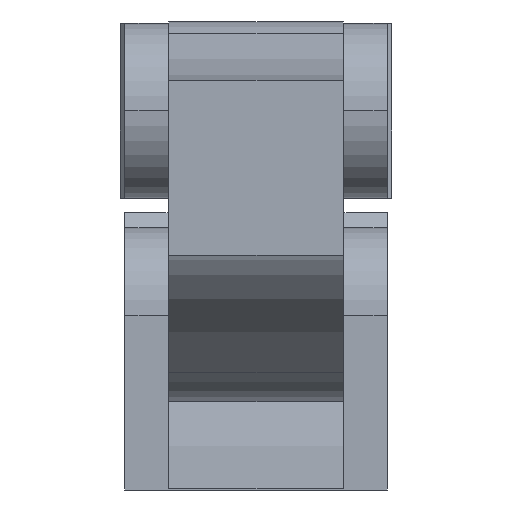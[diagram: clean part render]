
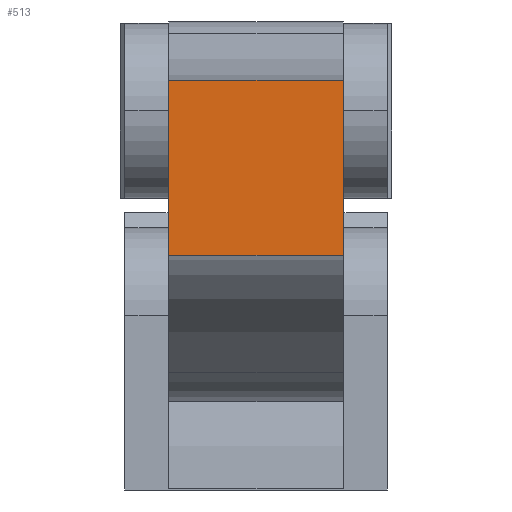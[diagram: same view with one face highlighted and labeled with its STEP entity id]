
A CAD part, left-side view. The second image highlights one B-rep face of the part: STEP entity #513.
In plain terms, the highlighted planar face has unit normal (-1, 0, 0).
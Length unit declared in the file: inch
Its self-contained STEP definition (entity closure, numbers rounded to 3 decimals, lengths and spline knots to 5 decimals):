
#513 = ADVANCED_FACE( '', ( #663 ), #664, .T. );
#663 = FACE_OUTER_BOUND( '', #969, .T. );
#664 = PLANE( '', #970 );
#969 = EDGE_LOOP( '', ( #1319, #1320, #1321, #1322 ) );
#970 = AXIS2_PLACEMENT_3D( '', #1323, #1324, #1325 );
#1319 = ORIENTED_EDGE( '', *, *, #2475, .F. );
#1320 = ORIENTED_EDGE( '', *, *, #2476, .T. );
#1321 = ORIENTED_EDGE( '', *, *, #2477, .T. );
#1322 = ORIENTED_EDGE( '', *, *, #2463, .F. );
#1323 = CARTESIAN_POINT( '', ( -3.625, 0.375, 1.75602 ) );
#1324 = DIRECTION( '', ( -1., 0., 0. ) );
#1325 = DIRECTION( '', ( 0., 0., 1. ) );
#2463 = EDGE_CURVE( '', #2865, #2866, #2867, .T. );
#2475 = EDGE_CURVE( '', #2882, #2865, #2884, .T. );
#2476 = EDGE_CURVE( '', #2882, #2885, #2886, .T. );
#2477 = EDGE_CURVE( '', #2885, #2866, #2887, .T. );
#2865 = VERTEX_POINT( '', #3517 );
#2866 = VERTEX_POINT( '', #3518 );
#2867 = LINE( '', #3519, #3520 );
#2882 = VERTEX_POINT( '', #3538 );
#2884 = LINE( '', #3541, #3542 );
#2885 = VERTEX_POINT( '', #3543 );
#2886 = LINE( '', #3544, #3545 );
#2887 = LINE( '', #3546, #3547 );
#3517 = CARTESIAN_POINT( '', ( -3.625, 0.375, 1.00602 ) );
#3518 = CARTESIAN_POINT( '', ( -3.625, 0.375, 1.75602 ) );
#3519 = CARTESIAN_POINT( '', ( -3.625, 0.375, 1.00602 ) );
#3520 = VECTOR( '', #4397, 1. );
#3538 = CARTESIAN_POINT( '', ( -3.625, -0.375, 1.00602 ) );
#3541 = CARTESIAN_POINT( '', ( -3.625, -0.375, 1.00602 ) );
#3542 = VECTOR( '', #4423, 1. );
#3543 = CARTESIAN_POINT( '', ( -3.625, -0.375, 1.75602 ) );
#3544 = CARTESIAN_POINT( '', ( -3.625, -0.375, 1.00602 ) );
#3545 = VECTOR( '', #4424, 1. );
#3546 = CARTESIAN_POINT( '', ( -3.625, -0.375, 1.75602 ) );
#3547 = VECTOR( '', #4425, 1. );
#4397 = DIRECTION( '', ( 0., 0., 1. ) );
#4423 = DIRECTION( '', ( 0., 1., 0. ) );
#4424 = DIRECTION( '', ( 0., 0., 1. ) );
#4425 = DIRECTION( '', ( 0., 1., 0. ) );
